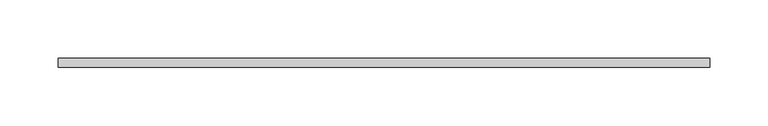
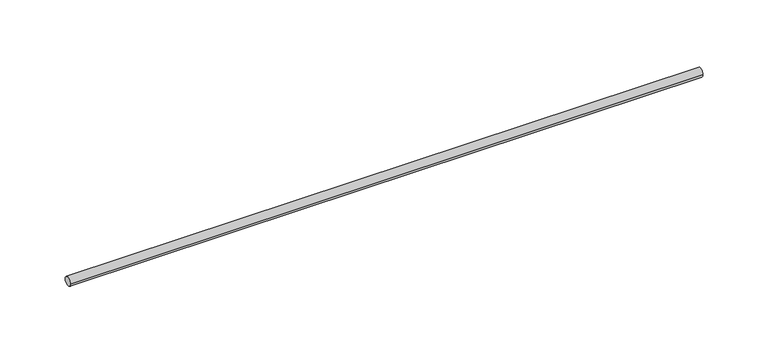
"""IFC4 building model written with IfcOpenShell, lengths in millimetres: valve geometry, Superfix Threaded Rod : Threaded Rod  Extra + -  M10 x 1000."""

from ifc_helpers import new_model, si_unit, point, frame, origin, origin_2d, place, context, project, spatial, circle_curve, trimmed, segment, composite_curve, outline, extrude, source, transform, mapped, element, save


def valve_77f8b98f(model_context):
    return source(origin(), model_context, "Body", "SweptSolid", [
        extrude(outline(composite_curve([segment(trimmed(circle_curve(origin_2d(), 4.0), [point((-4.0, 0.0))], [point((4.0, 0.0))], False, "CARTESIAN"), True, "CONTINUOUS"), segment(trimmed(circle_curve(origin_2d(), 4.0), [point((4.0, 0.0))], [point((-4.0, 0.0))], False, "CARTESIAN"), True, "CONTINUOUS")], self_intersect=False)), frame((0.0, 0.0, 0.0), z_axis=(1.0, 0.0, 0.0), x_axis=(0.0, 1.0, 0.0)), (0.0, 0.0, 1.0), 560.0),
    ])


if __name__ == "__main__":
    model = new_model("IFC4")
    model_context = context("Model", 3, world=origin())
    ifc_project = project(units=[si_unit("LENGTHUNIT", "METRE", prefix="MILLI")], contexts=[model_context])
    site = spatial("IfcSite", under=ifc_project)
    building = spatial("IfcBuilding", under=site)
    placement = place(None, origin())
    valve_shape = valve_77f8b98f(model_context)
    element("IfcValve", 1, ObjectType="Superfix Threaded Rod : Threaded Rod  Extra + -  M10 x 1000", at=placement, inside=building, context=model_context, shape_type="MappedRepresentation", body=[
        mapped(valve_shape, transform((0.0, 0.0, 0.0), x_axis=(1.0, 0.0, 0.0), y_axis=(0.0, 1.0, 0.0), z_axis=(0.0, 0.0, 1.0))),
    ])
    save(model, "model.ifc")
